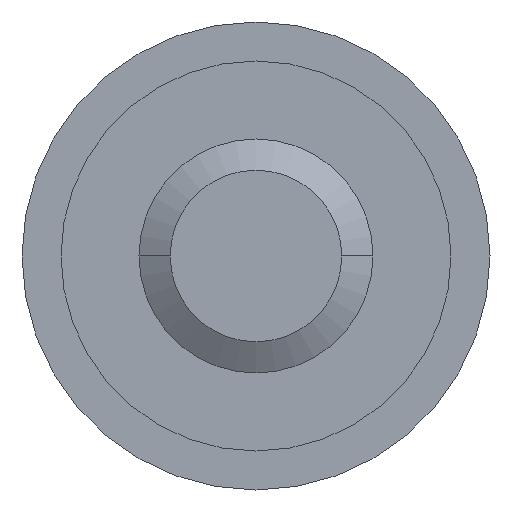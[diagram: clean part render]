
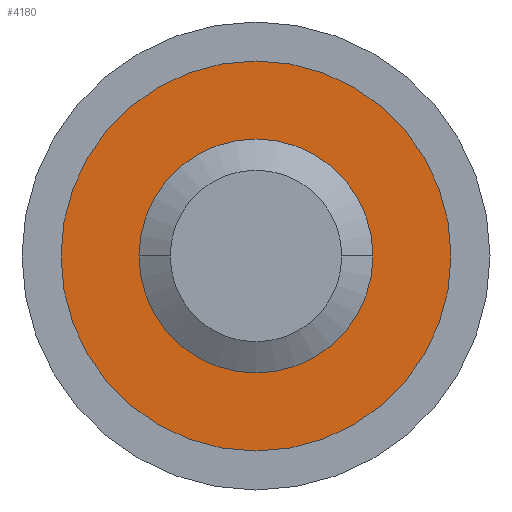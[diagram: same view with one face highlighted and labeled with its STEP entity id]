
A CAD part, front view. The second image highlights one B-rep face of the part: STEP entity #4180.
In plain terms, the highlighted planar face has unit normal (0, -1, 0).
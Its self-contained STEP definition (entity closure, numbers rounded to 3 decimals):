
#3490=CARTESIAN_POINT('',(-11.2,25.7,-4.75));
#3500=VERTEX_POINT('',#3490);
#3580=CARTESIAN_POINT('',(-18.7,25.7,-4.75));
#3590=VERTEX_POINT('',#3580);
#3620=CARTESIAN_POINT('',(-14.95,25.7,-4.75));
#3630=DIRECTION('',(0.,-1.,0.));
#3640=DIRECTION('',(1.,0.,0.));
#3650=AXIS2_PLACEMENT_3D('',#3620,#3630,#3640);
#3660=CIRCLE('',#3650,3.75);
#3670=EDGE_CURVE('',#3590,#3500,#3660,.T.);
#3930=CARTESIAN_POINT('',(-11.95,25.7,-4.75));
#3940=DIRECTION('',(0.,-1.,-0.));
#3950=DIRECTION('',(1.,0.,0.));
#3960=AXIS2_PLACEMENT_3D('',#3930,#3940,#3950);
#3970=PLANE('',#3960);
#3980=CARTESIAN_POINT('',(-14.95,25.7,-4.75));
#3990=DIRECTION('',(0.,-1.,0.));
#4000=DIRECTION('',(1.,0.,0.));
#4010=AXIS2_PLACEMENT_3D('',#3980,#3990,#4000);
#4020=CIRCLE('',#4010,2.25);
#4030=CARTESIAN_POINT('',(-12.7,25.7,-4.75));
#4040=VERTEX_POINT('',#4030);
#4050=CARTESIAN_POINT('',(-17.2,25.7,-4.75));
#4060=VERTEX_POINT('',#4050);
#4070=EDGE_CURVE('',#4040,#4060,#4020,.T.);
#4080=ORIENTED_EDGE('',*,*,#4070,.F.);
#4090=EDGE_CURVE('',#4060,#4040,#4020,.T.);
#4100=ORIENTED_EDGE('',*,*,#4090,.F.);
#4110=EDGE_LOOP('',(#4100,#4080));
#4120=FACE_BOUND('',#4110,.T.);
#4130=EDGE_CURVE('',#3500,#3590,#3660,.T.);
#4140=ORIENTED_EDGE('',*,*,#4130,.T.);
#4150=ORIENTED_EDGE('',*,*,#3670,.T.);
#4160=EDGE_LOOP('',(#4150,#4140));
#4170=FACE_OUTER_BOUND('',#4160,.T.);
#4180=ADVANCED_FACE('',(#4120,#4170),#3970,.T.);
